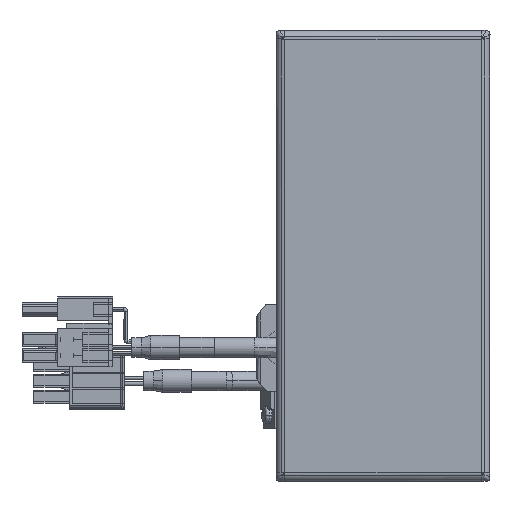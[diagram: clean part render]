
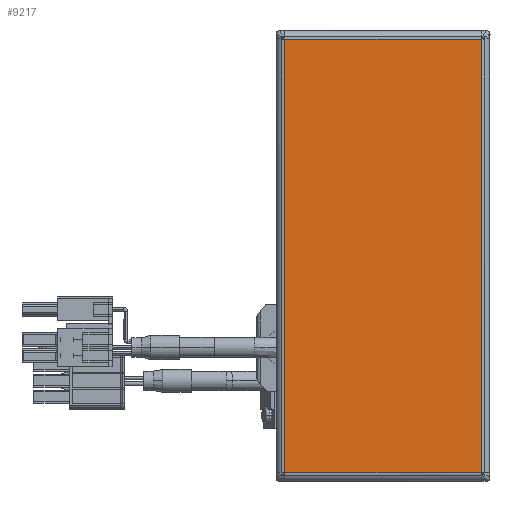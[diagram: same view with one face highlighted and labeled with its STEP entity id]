
A CAD part, top view. The second image highlights one B-rep face of the part: STEP entity #9217.
In plain terms, the highlighted planar face has unit normal (0, 0, 1) as drawn and (0, 0, -1) by its records, which use the part's own axes.
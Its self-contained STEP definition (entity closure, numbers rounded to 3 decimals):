
#2042 = PLANE ( 'NONE',  #58997 ) ;
#3203 = EDGE_CURVE ( 'NONE', #20144, #39970, #44140, .T. ) ;
#5047 = CARTESIAN_POINT ( 'NONE',  ( 56.793, -25.763, -1.5 ) ) ;
#5351 = ORIENTED_EDGE ( 'NONE', *, *, #38962, .T. ) ;
#5817 = DIRECTION ( 'NONE',  ( 0., -1., 0. ) ) ;
#6690 = DIRECTION ( 'NONE',  ( -1., 0., 0. ) ) ;
#7255 = VECTOR ( 'NONE', #58583, 1000. ) ;
#9217 = ADVANCED_FACE ( 'NONE', ( #39101 ), #2042, .T. ) ;
#13975 = EDGE_LOOP ( 'NONE', ( #36766, #5351, #16458, #33286 ) ) ;
#16048 = CARTESIAN_POINT ( 'NONE',  ( -56.763, -25.793, -1.5 ) ) ;
#16458 = ORIENTED_EDGE ( 'NONE', *, *, #47976, .T. ) ;
#19783 = CARTESIAN_POINT ( 'NONE',  ( -56.763, -25.763, -1.5 ) ) ;
#20144 = VERTEX_POINT ( 'NONE', #59396 ) ;
#21422 = CARTESIAN_POINT ( 'NONE',  ( 56.763, -25.763, -1.5 ) ) ;
#23802 = LINE ( 'NONE', #47266, #46966 ) ;
#27713 = LINE ( 'NONE', #5047, #38602 ) ;
#27938 = CARTESIAN_POINT ( 'NONE',  ( 56.763, 25.763, -1.5 ) ) ;
#32717 = DIRECTION ( 'NONE',  ( -1., 0., 0. ) ) ;
#33286 = ORIENTED_EDGE ( 'NONE', *, *, #3203, .T. ) ;
#33600 = VERTEX_POINT ( 'NONE', #19783 ) ;
#34390 = DIRECTION ( 'NONE',  ( 0., 0., -1. ) ) ;
#35342 = CARTESIAN_POINT ( 'NONE',  ( -56.793, 25.763, -1.5 ) ) ;
#36766 = ORIENTED_EDGE ( 'NONE', *, *, #53340, .T. ) ;
#38602 = VECTOR ( 'NONE', #32717, 1000. ) ;
#38962 = EDGE_CURVE ( 'NONE', #48698, #33600, #27713, .T. ) ;
#39101 = FACE_OUTER_BOUND ( 'NONE', #13975, .T. ) ;
#39970 = VERTEX_POINT ( 'NONE', #27938 ) ;
#43126 = VECTOR ( 'NONE', #48377, 1000. ) ;
#44140 = LINE ( 'NONE', #35342, #7255 ) ;
#46966 = VECTOR ( 'NONE', #5817, 1000. ) ;
#47266 = CARTESIAN_POINT ( 'NONE',  ( 56.763, 25.793, -1.5 ) ) ;
#47976 = EDGE_CURVE ( 'NONE', #33600, #20144, #53968, .T. ) ;
#48377 = DIRECTION ( 'NONE',  ( 0., 1., 0. ) ) ;
#48698 = VERTEX_POINT ( 'NONE', #21422 ) ;
#53340 = EDGE_CURVE ( 'NONE', #39970, #48698, #23802, .T. ) ;
#53968 = LINE ( 'NONE', #16048, #43126 ) ;
#57227 = CARTESIAN_POINT ( 'NONE',  ( 0., 0., -1.5 ) ) ;
#58583 = DIRECTION ( 'NONE',  ( 1., 0., 0. ) ) ;
#58997 = AXIS2_PLACEMENT_3D ( 'NONE', #57227, #34390, #6690 ) ;
#59396 = CARTESIAN_POINT ( 'NONE',  ( -56.763, 25.763, -1.5 ) ) ;
